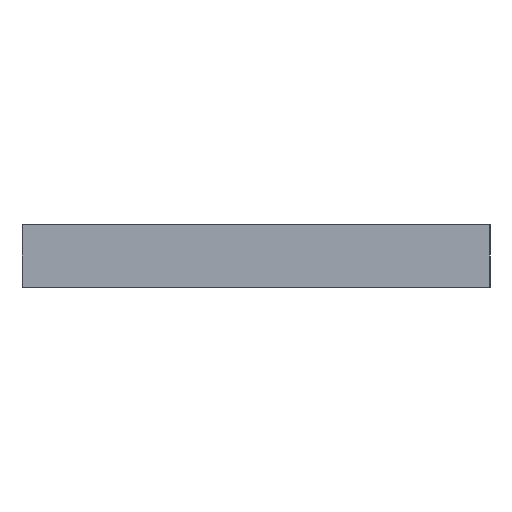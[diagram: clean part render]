
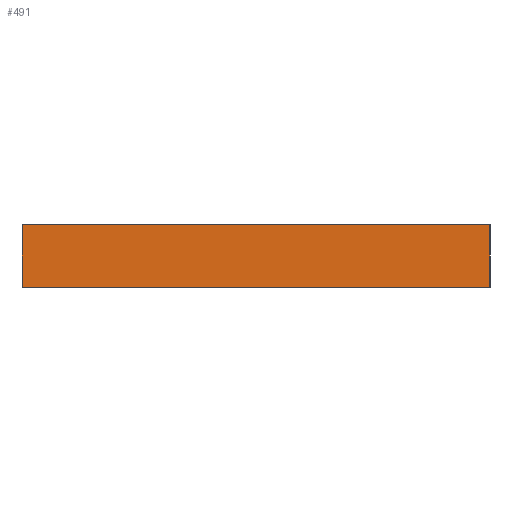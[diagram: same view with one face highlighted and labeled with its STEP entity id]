
A CAD part, left-side view. The second image highlights one B-rep face of the part: STEP entity #491.
In plain terms, the highlighted planar face has unit normal (-1, 0, 0).
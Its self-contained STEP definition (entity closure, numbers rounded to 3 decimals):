
#16 = LINE ( 'NONE', #17, #19 ) ;
#17 = CARTESIAN_POINT ( 'NONE',  ( -100.002, 75., -20. ) ) ;
#19 = VECTOR ( 'NONE', #20, 1000. ) ;
#20 = DIRECTION ( 'NONE',  ( 0., 0., 1. ) ) ;
#26 = LINE ( 'NONE', #27, #28 ) ;
#27 = CARTESIAN_POINT ( 'NONE',  ( -100.002, -75., -20. ) ) ;
#28 = VECTOR ( 'NONE', #29, 1000. ) ;
#29 = DIRECTION ( 'NONE',  ( 0., 0., 1. ) ) ;
#155 = EDGE_CURVE ( 'NONE', #681, #229, #453, .T. ) ;
#189 = ORIENTED_EDGE ( 'NONE', *, *, #155, .T. ) ;
#197 = VERTEX_POINT ( 'NONE', #730 ) ;
#220 = VERTEX_POINT ( 'NONE', #863 ) ;
#229 = VERTEX_POINT ( 'NONE', #936 ) ;
#238 = EDGE_CURVE ( 'NONE', #681, #197, #16, .T. ) ;
#240 = EDGE_CURVE ( 'NONE', #229, #220, #26, .T. ) ;
#268 = EDGE_LOOP ( 'NONE', ( #959, #1039, #189, #773 ) ) ;
#453 = LINE ( 'NONE', #454, #455 ) ;
#454 = CARTESIAN_POINT ( 'NONE',  ( -100.002, 75., -20. ) ) ;
#455 = VECTOR ( 'NONE', #456, 1000. ) ;
#456 = DIRECTION ( 'NONE',  ( 0., -1., 0. ) ) ;
#490 = EDGE_CURVE ( 'NONE', #197, #220, #690, .T. ) ;
#491 = ADVANCED_FACE ( 'NONE', ( #694 ), #695, .T. ) ;
#681 = VERTEX_POINT ( 'NONE', #790 ) ;
#690 = LINE ( 'NONE', #691, #692 ) ;
#691 = CARTESIAN_POINT ( 'NONE',  ( -100.002, 75., 0. ) ) ;
#692 = VECTOR ( 'NONE', #693, 1000. ) ;
#693 = DIRECTION ( 'NONE',  ( 0., -1., 0. ) ) ;
#694 = FACE_OUTER_BOUND ( 'NONE', #268, .T. ) ;
#695 = PLANE ( 'NONE',  #696 ) ;
#696 = AXIS2_PLACEMENT_3D ( 'NONE', #697, #699, #700 ) ;
#697 = CARTESIAN_POINT ( 'NONE',  ( -100.002, 75., -20. ) ) ;
#699 = DIRECTION ( 'NONE',  ( -1., 0., 0. ) ) ;
#700 = DIRECTION ( 'NONE',  ( 0., 0., 1. ) ) ;
#730 = CARTESIAN_POINT ( 'NONE',  ( -100.002, 75., 0. ) ) ;
#773 = ORIENTED_EDGE ( 'NONE', *, *, #240, .T. ) ;
#790 = CARTESIAN_POINT ( 'NONE',  ( -100.002, 75., -20. ) ) ;
#863 = CARTESIAN_POINT ( 'NONE',  ( -100.002, -75., 0. ) ) ;
#936 = CARTESIAN_POINT ( 'NONE',  ( -100.002, -75., -20. ) ) ;
#959 = ORIENTED_EDGE ( 'NONE', *, *, #490, .F. ) ;
#1039 = ORIENTED_EDGE ( 'NONE', *, *, #238, .F. ) ;
